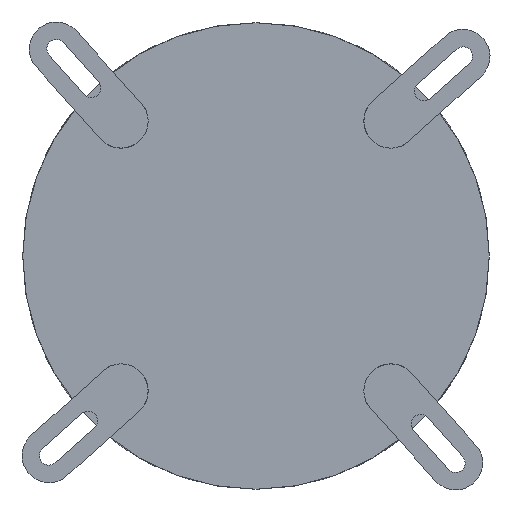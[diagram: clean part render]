
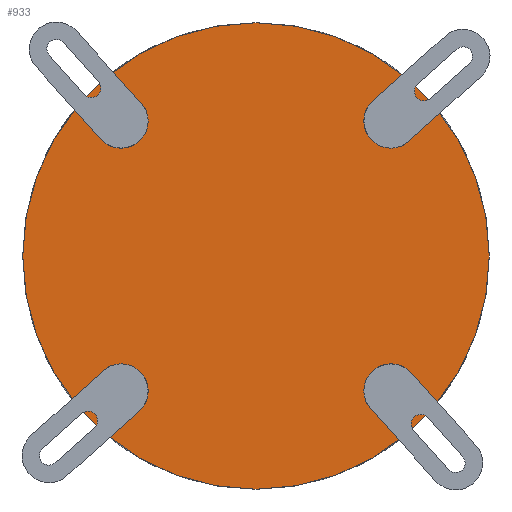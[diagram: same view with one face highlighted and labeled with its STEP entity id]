
A CAD part, front view. The second image highlights one B-rep face of the part: STEP entity #933.
In plain terms, the highlighted planar face has unit normal (0, -1, 0).
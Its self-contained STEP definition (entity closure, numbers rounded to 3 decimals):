
#933=ADVANCED_FACE('NONE',(#2589,#2590,#2591,#2592,#2593),#1303,.T.);
#1303=PLANE('',#7167);
#2589=FACE_BOUND('',#2777,.T.);
#2590=FACE_BOUND('',#2778,.T.);
#2591=FACE_BOUND('',#2779,.T.);
#2592=FACE_BOUND('',#2780,.T.);
#2593=FACE_BOUND('',#2781,.T.);
#2777=EDGE_LOOP('',(#3568,#3569));
#2778=EDGE_LOOP('',(#3570,#3571));
#2779=EDGE_LOOP('',(#3572,#3573));
#2780=EDGE_LOOP('',(#3574,#3575));
#2781=EDGE_LOOP('',(#3576,#3577));
#3568=ORIENTED_EDGE('',*,*,#5881,.T.);
#3569=ORIENTED_EDGE('',*,*,#5914,.T.);
#3570=ORIENTED_EDGE('',*,*,#5893,.T.);
#3571=ORIENTED_EDGE('',*,*,#5915,.T.);
#3572=ORIENTED_EDGE('',*,*,#5889,.T.);
#3573=ORIENTED_EDGE('',*,*,#5916,.T.);
#3574=ORIENTED_EDGE('',*,*,#5885,.T.);
#3575=ORIENTED_EDGE('',*,*,#5917,.T.);
#3576=ORIENTED_EDGE('',*,*,#5918,.F.);
#3577=ORIENTED_EDGE('',*,*,#5919,.F.);
#5190=VERTEX_POINT('',#10350);
#5192=VERTEX_POINT('',#10353);
#5194=VERTEX_POINT('',#10359);
#5196=VERTEX_POINT('',#10362);
#5198=VERTEX_POINT('',#10368);
#5200=VERTEX_POINT('',#10371);
#5202=VERTEX_POINT('',#10377);
#5204=VERTEX_POINT('',#10380);
#5221=VERTEX_POINT('',#10432);
#5222=VERTEX_POINT('',#10433);
#5881=EDGE_CURVE('NONE',#5192,#5190,#6704,.T.);
#5885=EDGE_CURVE('NONE',#5196,#5194,#6706,.T.);
#5889=EDGE_CURVE('NONE',#5200,#5198,#6708,.T.);
#5893=EDGE_CURVE('NONE',#5204,#5202,#6710,.T.);
#5914=EDGE_CURVE('NONE',#5190,#5192,#6721,.T.);
#5915=EDGE_CURVE('NONE',#5202,#5204,#6722,.T.);
#5916=EDGE_CURVE('NONE',#5198,#5200,#6723,.T.);
#5917=EDGE_CURVE('NONE',#5194,#5196,#6724,.T.);
#5918=EDGE_CURVE('NONE',#5221,#5222,#6725,.T.);
#5919=EDGE_CURVE('NONE',#5222,#5221,#6726,.T.);
#6704=CIRCLE('',#7136,2.5);
#6706=CIRCLE('',#7139,2.5);
#6708=CIRCLE('',#7142,2.5);
#6710=CIRCLE('',#7145,2.5);
#6721=CIRCLE('',#7161,2.5);
#6722=CIRCLE('',#7162,2.5);
#6723=CIRCLE('',#7163,2.5);
#6724=CIRCLE('',#7164,2.5);
#6725=CIRCLE('',#7165,86.5);
#6726=CIRCLE('',#7166,86.5);
#7136=AXIS2_PLACEMENT_3D('',#10352,#8168,#8169);
#7139=AXIS2_PLACEMENT_3D('',#10361,#8176,#8177);
#7142=AXIS2_PLACEMENT_3D('',#10370,#8184,#8185);
#7145=AXIS2_PLACEMENT_3D('',#10379,#8192,#8193);
#7161=AXIS2_PLACEMENT_3D('',#10427,#8233,#8234);
#7162=AXIS2_PLACEMENT_3D('',#10428,#8235,#8236);
#7163=AXIS2_PLACEMENT_3D('',#10429,#8237,#8238);
#7164=AXIS2_PLACEMENT_3D('',#10430,#8239,#8240);
#7165=AXIS2_PLACEMENT_3D('',#10431,#8241,#8242);
#7166=AXIS2_PLACEMENT_3D('',#10434,#8243,#8244);
#7167=AXIS2_PLACEMENT_3D('',#10435,#8245,#8246);
#8168=DIRECTION('',(0.,1.,0.));
#8169=DIRECTION('',(0.,0.,1.));
#8176=DIRECTION('',(0.,1.,0.));
#8177=DIRECTION('',(0.,0.,1.));
#8184=DIRECTION('',(0.,1.,0.));
#8185=DIRECTION('',(0.,0.,1.));
#8192=DIRECTION('',(0.,1.,0.));
#8193=DIRECTION('',(0.,0.,1.));
#8233=DIRECTION('',(0.,1.,0.));
#8234=DIRECTION('',(0.,0.,1.));
#8235=DIRECTION('',(0.,1.,0.));
#8236=DIRECTION('',(0.,0.,1.));
#8237=DIRECTION('',(0.,1.,0.));
#8238=DIRECTION('',(0.,0.,1.));
#8239=DIRECTION('',(0.,1.,0.));
#8240=DIRECTION('',(0.,0.,1.));
#8241=DIRECTION('',(0.,1.,0.));
#8242=DIRECTION('',(0.,0.,-1.));
#8243=DIRECTION('',(0.,1.,0.));
#8244=DIRECTION('',(0.,0.,-1.));
#8245=DIRECTION('',(0.,-1.,0.));
#8246=DIRECTION('',(0.,0.,-1.));
#10350=CARTESIAN_POINT('',(-327.076,-1.504,-52.351));
#10352=CARTESIAN_POINT('',(-327.076,-1.504,-49.851));
#10353=CARTESIAN_POINT('',(-327.076,-1.504,-47.351));
#10359=CARTESIAN_POINT('',(-327.076,-1.504,47.351));
#10361=CARTESIAN_POINT('',(-327.076,-1.504,49.851));
#10362=CARTESIAN_POINT('',(-327.076,-1.504,52.351));
#10368=CARTESIAN_POINT('',(-227.374,-1.504,47.351));
#10370=CARTESIAN_POINT('',(-227.374,-1.504,49.851));
#10371=CARTESIAN_POINT('',(-227.374,-1.504,52.351));
#10377=CARTESIAN_POINT('',(-227.374,-1.504,-52.351));
#10379=CARTESIAN_POINT('',(-227.374,-1.504,-49.851));
#10380=CARTESIAN_POINT('',(-227.374,-1.504,-47.351));
#10427=CARTESIAN_POINT('',(-327.076,-1.504,-49.851));
#10428=CARTESIAN_POINT('',(-227.374,-1.504,-49.851));
#10429=CARTESIAN_POINT('',(-227.374,-1.504,49.851));
#10430=CARTESIAN_POINT('',(-327.076,-1.504,49.851));
#10431=CARTESIAN_POINT('',(-277.225,-1.504,0.));
#10432=CARTESIAN_POINT('',(-277.225,-1.504,-86.5));
#10433=CARTESIAN_POINT('',(-277.225,-1.504,86.5));
#10434=CARTESIAN_POINT('',(-277.225,-1.504,0.));
#10435=CARTESIAN_POINT('',(-277.225,-1.504,0.));
